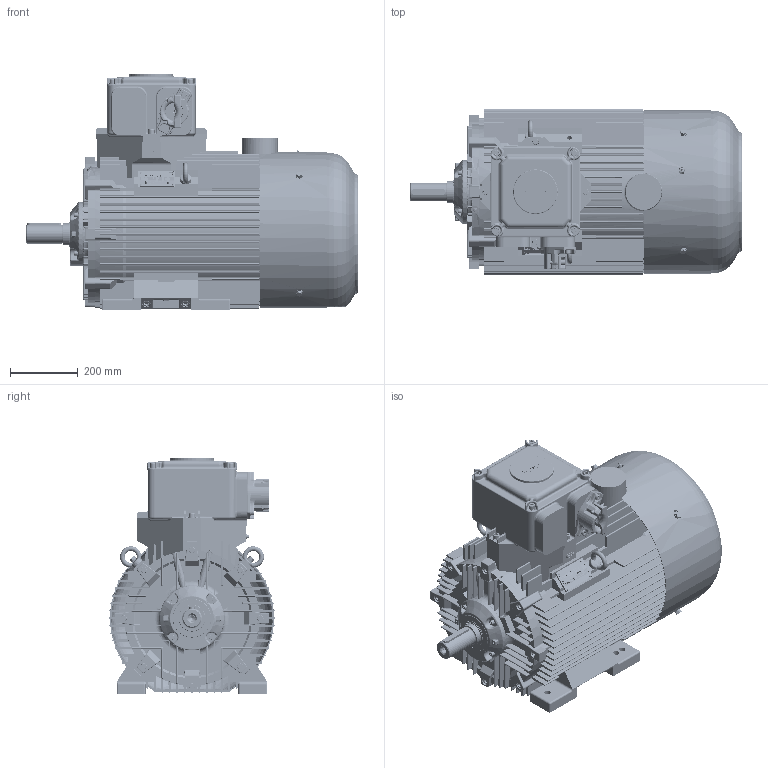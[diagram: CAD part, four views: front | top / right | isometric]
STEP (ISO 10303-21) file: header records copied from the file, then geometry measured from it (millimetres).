
FILE_DESCRIPTION(/* description */ ('Unknown'),/* implementation_level */ '2;1');
FILE_NAME(/* name */ 'Silnik EcSTe225 M2 - wykonanie OUTSIDE !',/* time_stamp */ '2021-12-23T13:46:22+01:00',/* author */ ('Unknown'),/* organization */ ('Unknown'),/* preprocessor_version */ 'ST-DEVELOPER v16.7',/* originating_system */ 'DEX',/* authorisation */ $);
FILE_SCHEMA (('AUTOMOTIVE_DESIGN {1 0 10303 214 3 1 1}'));
Products named in the file (1): Silnik EcSTe225 M2 - wykonanie OUTSIDE !
Bounding box: 979.13 x 489.83 x 698.8 mm (x, y, z)
Volume: 29786866.5 mm3; surface area: 6729004.7 mm2
Topology: 4 solids, 100 shells, 9347 faces, 25610 edges, 16372 vertices
Faces by surface type: plane 5702, cylinder 2099, cone 490, torus 461, bspline 421, sphere 174
Full cylindrical faces by diameter (mm): 1.2 x4, 1.6 x2, 2.013 x1, 2.459 x3, 2.5 x2, 3 x6, 3.1 x4, 3.2 x2, 3.4 x6, 4.5 x1, 4.773 x1, 4.917 x4, 5 x3, 6 x3, 6.2 x14, 6.3 x2, 6.4 x2, 6.466 x4, 6.5 x1, 6.647 x6, 8 x9, 8.16 x4, 8.8 x1, 8.917 x4, 9 x4, 9.853 x24, 10 x20, 10.106 x27, 10.5 x4, 12 x52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
Entity records: 375109 total; most frequent: CARTESIAN_POINT 81226, ORIENTED_EDGE 47732, DIRECTION 45307, EDGE_CURVE 23866, LINE 16385, VECTOR 16385, VERTEX_POINT 15753, AXIS2_PLACEMENT_3D 14461
